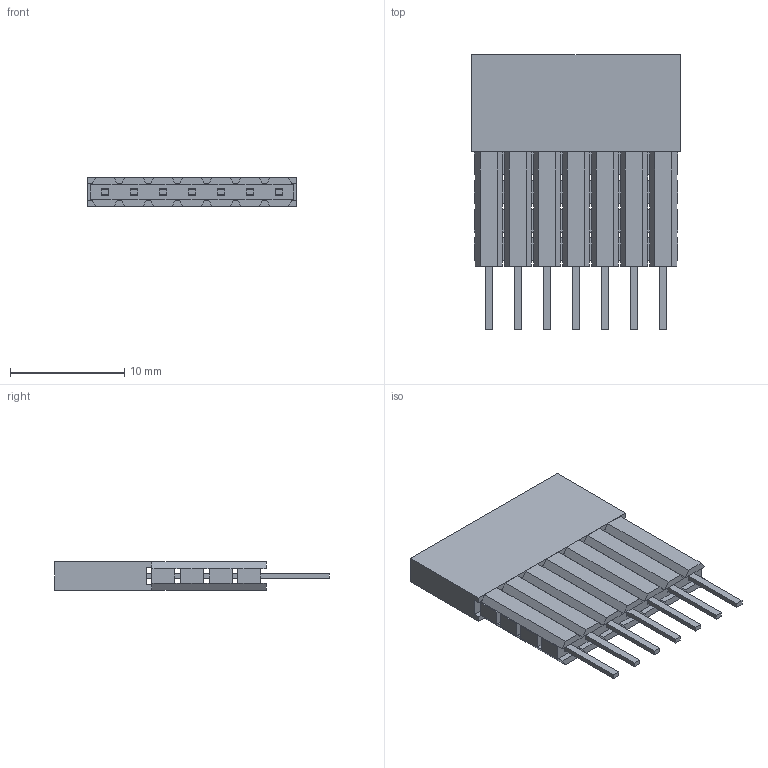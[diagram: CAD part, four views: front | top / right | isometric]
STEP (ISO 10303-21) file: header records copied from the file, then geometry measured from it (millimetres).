
FILE_DESCRIPTION(/* description */ (''),/* implementation_level */ '2;1');
FILE_NAME(/* name */ 'PM254-1-07-Z-C18.5-XX-4LP(L24.0)(2.54 单排 排母 直针 加4层塑胶-HCTL).stp',/* time_stamp */ '2026-10-24T15:02:18+08:00',/* author */ (''),/* organization */ (''),/* preprocessor_version */ 'ST-DEVELOPER v16',/* originating_system */ 'SIEMENS PLM Software NX 10.0',/* authorisation */ '');
FILE_SCHEMA (('AUTOMOTIVE_DESIGN { 1 0 10303 214 3 1 1 1 }'));
Length unit declared in the file: millimetre
Products named in the file (1): PM254-1-N-Z-C18.5-XX-4LP_L24.0__2.54 单排 排母 
直针 加4层塑胶-HCTL__step
Bounding box: 18.18 x 24 x 2.5 mm (x, y, z)
Volume: 706.9 mm3; surface area: 1709.8 mm2
Topology: 2 solids, 2 shells, 412 faces, 1248 edges, 748 vertices
Faces by surface type: plane 412
Entity records: 13709 total; most frequent: ORIENTED_EDGE 2496, CARTESIAN_POINT 2409, DIRECTION 2074, EDGE_CURVE 1248, LINE 1248, VECTOR 1248, VERTEX_POINT 748, EDGE_LOOP 482
